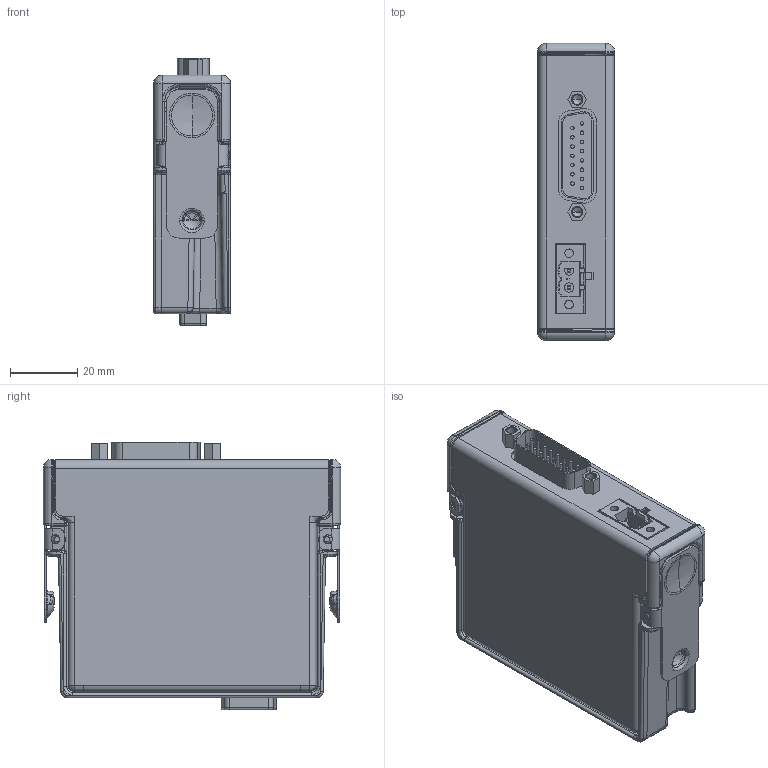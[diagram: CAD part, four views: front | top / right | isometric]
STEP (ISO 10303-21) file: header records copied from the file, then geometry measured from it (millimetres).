
FILE_DESCRIPTION((''),'2;1');
FILE_NAME('CART_CRIO_DB_15_2_POS_CMBCN','2007-01-26T',('chrisj'),(''),'PRO/ENGINEER BY PARAMETRIC TECHNOLOGY CORPORATION, 2006080','PRO/ENGINEER BY PARAMETRIC TECHNOLOGY CORPORATION, 2006080','');
FILE_SCHEMA(('AUTOMOTIVE_DESIGN_CC2 { 1 2 10303 214 -1 1 5 2 }'));
Products named in the file (1): CART_CRIO_DB_15_2_POS_CMBCN
Bounding box: 22.86 x 88.11 x 79.27 mm (x, y, z)
Volume: 44285.5 mm3; surface area: 48872.2 mm2
Topology: 14 solids, 14 shells, 1752 faces, 4154 edges, 2450 vertices
Faces by surface type: plane 663, cylinder 543, bspline 365, cone 68, torus 60, sphere 47, extrusion 6
Entity records: 70232 total; most frequent: CARTESIAN_POINT 32744, ORIENTED_EDGE 8156, DIRECTION 7062, EDGE_CURVE 4078, AXIS2_PLACEMENT_3D 2523, VERTEX_POINT 2488, VECTOR 2016, LINE 2010
